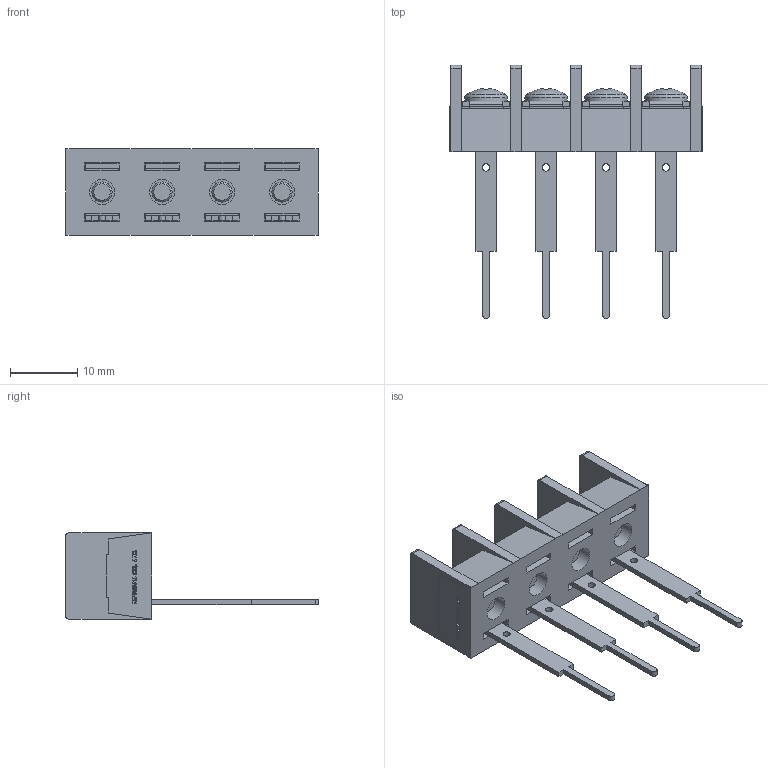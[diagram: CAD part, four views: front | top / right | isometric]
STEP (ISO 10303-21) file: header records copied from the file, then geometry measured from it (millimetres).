
FILE_DESCRIPTION(/* description */ ('Alibre Inc.'),/* implementation_level */ '2;1');
FILE_NAME(/* name */ 'export0',/* time_stamp */ '2015-10-20T19:59:16+09:00',/* author */ (''),/* organization */ (''),/* preprocessor_version */ 'ST-DEVELOPER v14',/* originating_system */ 'Alibre',/* authorisation */ '');
FILE_SCHEMA (('CONFIG_CONTROL_DESIGN'));
Length unit declared in the file: centimetre
Products named in the file (1): ID_1
Bounding box: 37.47 x 37.5 x 12.8 mm (x, y, z)
Volume: 3715.7 mm3; surface area: 5056.1 mm2
Topology: 1 solids, 65 shells, 1534 faces, 3980 edges, 2636 vertices
Faces by surface type: plane 1144, bspline 312, cylinder 46, cone 20, torus 8, sphere 4
Full cylindrical faces by diameter (mm): 1.1 x4, 3 x4, 3.7 x4, 4.6 x4, 6.3 x4
Entity records: 44841 total; most frequent: CARTESIAN_POINT 11021, ORIENTED_EDGE 7872, DIRECTION 4616, EDGE_CURVE 3936, VECTOR 3038, LINE 3038, VERTEX_POINT 2624, EDGE_LOOP 1690
